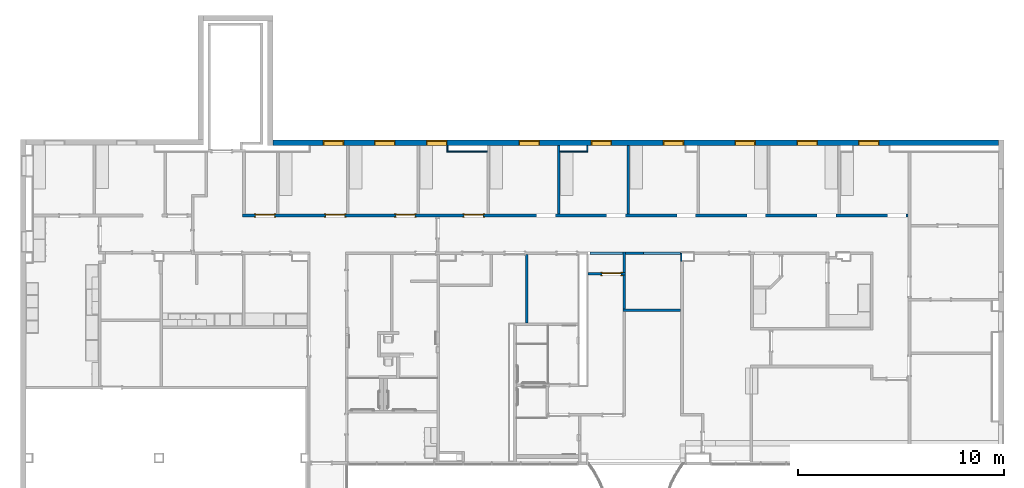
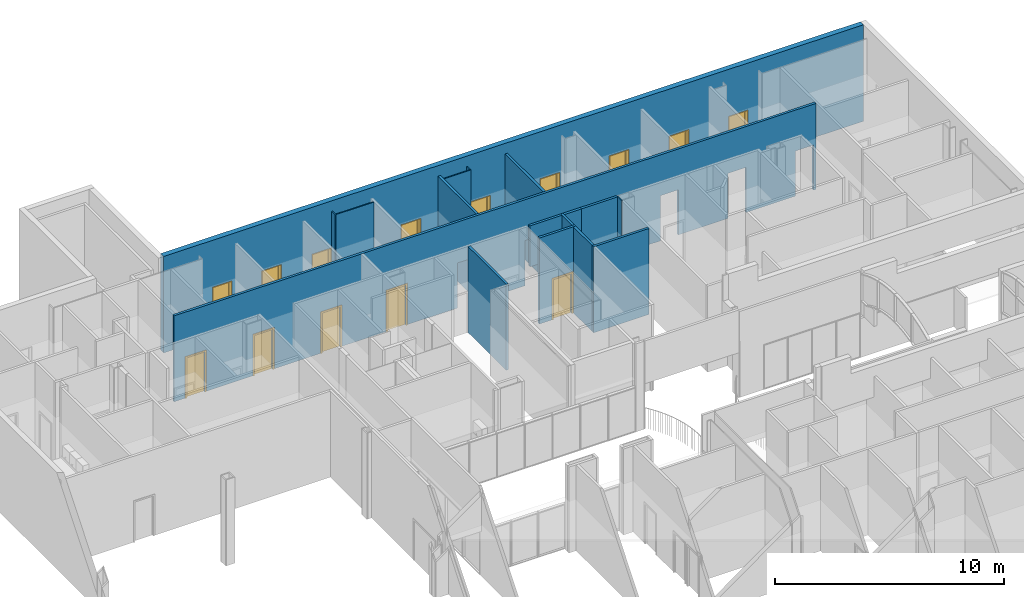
# One storey, part 22 of 45: 17 walls, 9 windows, 5 doors, 20 openings.
"""IFC2X3 building model written with IfcOpenShell, lengths in metres."""

from ifc_helpers import new_model, entity, si_unit, converted_unit, frame, frame_2d, origin, origin_2d_with_axis, place, context, project, spatial, polyline, rectangle, outline, extrude, source, transform, mapped, material, layer, layer_set, layer_usage, type_object, type_shapes, element, fill, save


model = new_model("IFC2X3")

# Units and contexts
model_context = context("Model", 3, precision=1e-09, world=origin())
plan_context = context("Plan", 3, precision=1e-09, world=origin())
ifc_project = project(units=[si_unit("LENGTHUNIT", "METRE"), si_unit("AREAUNIT", "SQUARE_METRE"), si_unit("VOLUMEUNIT", "CUBIC_METRE"), converted_unit("PLANEANGLEUNIT", "DEGREE", entity("IfcRatioMeasure", 0.01745329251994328), si_unit("PLANEANGLEUNIT", "RADIAN"), dimensions=[0, 0, 0, 0, 0, 0, 0]), si_unit("TIMEUNIT", "SECOND")], contexts=[model_context, plan_context])

# Site, building, storey
site_placement = place(None, origin())
site = spatial("IfcSite", under=ifc_project, at=site_placement, Name="Default", CompositionType="ELEMENT")
building_placement = place(site_placement, origin())
building = spatial("IfcBuilding", under=site, at=building_placement, CompositionType="ELEMENT")
storey_placement = place(building_placement, frame((0.0, 0.0, 4.570000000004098)))
storey = spatial("IfcBuildingStorey", under=building, at=storey_placement, Name="Second Floor", CompositionType="ELEMENT", Elevation=4.570000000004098)

# Wall, openings, doors
ifc_material_1 = material(Name="Plasterboard")
ifc_layer_1 = layer(ifc_material_1, 0.016)
ifc_material_2 = material(Name="Metal - Stud Layer")
ifc_layer_2 = layer(ifc_material_2, 0.092)
ifc_layer_3 = layer(ifc_material_1, 0.016)
ifc_layer_set_1 = layer_set([ifc_layer_1, ifc_layer_2, ifc_layer_3], Name="Basic Wall:Interior - Partition (92mm Stud)")
ifc_layer_usage_1 = layer_usage(ifc_layer_set_1, "AXIS2", "NEGATIVE", 0.062)
wall_1_placement = place(storey_placement, frame((-4.270000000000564, 46.81643871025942, 0.0), z_axis=(0.0, 0.0, 1.0), x_axis=(-1.0, 0.0, 0.0)))
wall_1 = element("IfcWallStandardCase", 1, at=wall_1_placement, inside=storey, material=ifc_layer_usage_1, Name="Basic Wall:Interior - Partition (92mm Stud)", ObjectType="Basic Wall:Interior - Partition (92mm Stud)", context=model_context, shape_type="SweptSolid", body=[
    extrude(rectangle(XDim=32.32000000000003, YDim=0.1240000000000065, at=frame_2d((16.16000000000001, 0.0), x_axis=(-1.0, 0.0))), origin(), (0.0, 0.0, 1.0), 4.577999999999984),
])
opening_1_placement = place(wall_1_placement, frame((17.59909999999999, 0.06200000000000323, 1.199999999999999)))
element("IfcOpeningElement", 2, at=opening_1_placement, cuts=wall_1, Name="Basic Wall:Interior - Partition (92mm Stud):7", ObjectType="Opening", context=model_context, shape_type="SweptSolid", body=[
    extrude(rectangle(XDim=2.4, YDim=0.9149999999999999, at=frame_2d((0.0, 0.0), x_axis=(0.0, 1.0))), frame((0.0, 0.0, 0.0), z_axis=(0.0, -1.0, 0.0), x_axis=(1.0, 0.0, 0.0)), (0.0, 0.0, 1.0), 0.124),
])
opening_2_placement = place(wall_1_placement, frame((7.37629231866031, 0.06200000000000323, 1.199999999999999)))
element("IfcOpeningElement", 3, at=opening_2_placement, cuts=wall_1, Name="Basic Wall:Interior - Partition (92mm Stud):4", ObjectType="Opening", context=model_context, shape_type="SweptSolid", body=[
    extrude(rectangle(XDim=2.4, YDim=0.9006153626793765, at=frame_2d((0.0, 0.0), x_axis=(0.0, 1.0))), frame((0.0, 0.0, 0.0), z_axis=(0.0, -1.0, 0.0), x_axis=(1.0, 0.0, 0.0)), (0.0, 0.0, 1.0), 0.124),
])
opening_3_placement = place(wall_1_placement, frame((3.968300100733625, 0.06200000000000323, 1.199999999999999)))
element("IfcOpeningElement", 4, at=opening_3_placement, cuts=wall_1, Name="Basic Wall:Interior - Partition (92mm Stud):3", ObjectType="Opening", context=model_context, shape_type="SweptSolid", body=[
    extrude(rectangle(XDim=2.4, YDim=0.9165997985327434, at=frame_2d((0.0, 0.0), x_axis=(0.0, 1.0))), frame((0.0, 0.0, 0.0), z_axis=(0.0, -1.0, 0.0), x_axis=(1.0, 0.0, 0.0)), (0.0, 0.0, 1.0), 0.124),
])
opening_4_placement = place(wall_1_placement, frame((14.18909999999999, 0.06200000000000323, 1.199999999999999)))
element("IfcOpeningElement", 5, at=opening_4_placement, cuts=wall_1, Name="Basic Wall:Interior - Partition (92mm Stud):6", ObjectType="Opening", context=model_context, shape_type="SweptSolid", body=[
    extrude(rectangle(XDim=2.4, YDim=0.9149999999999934, at=frame_2d((0.0, 0.0), x_axis=(0.0, 1.0))), frame((0.0, 0.0, 0.0), z_axis=(0.0, -1.0, 0.0), x_axis=(1.0, 0.0, 0.0)), (0.0, 0.0, 1.0), 0.124),
])
opening_5_placement = place(wall_1_placement, frame((0.5662923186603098, 0.06200000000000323, 1.199999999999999)))
element("IfcOpeningElement", 6, at=opening_5_placement, cuts=wall_1, Name="Basic Wall:Interior - Partition (92mm Stud):2", ObjectType="Opening", context=model_context, shape_type="SweptSolid", body=[
    extrude(rectangle(XDim=2.4, YDim=0.9006153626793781, at=frame_2d((0.0, 0.0), x_axis=(0.0, 1.0))), frame((0.0, 0.0, 0.0), z_axis=(0.0, -1.0, 0.0), x_axis=(1.0, 0.0, 0.0)), (0.0, 0.0, 1.0), 0.124),
])
opening_6_placement = place(wall_1_placement, frame((10.7791, 0.06200000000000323, 1.199999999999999)))
element("IfcOpeningElement", 7, at=opening_6_placement, cuts=wall_1, Name="Basic Wall:Interior - Partition (92mm Stud):5", ObjectType="Opening", context=model_context, shape_type="SweptSolid", body=[
    extrude(rectangle(XDim=2.4, YDim=0.9149999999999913, at=frame_2d((0.0, 0.0), x_axis=(0.0, 1.0))), frame((0.0, 0.0, 0.0), z_axis=(0.0, -1.0, 0.0), x_axis=(1.0, 0.0, 0.0)), (0.0, 0.0, 1.0), 0.124),
])
opening_7_placement = place(wall_1_placement, frame((24.875, 0.0619999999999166, 0.0)))
opening_7 = element("IfcOpeningElement", 8, at=opening_7_placement, cuts=wall_1, Name=":1", ObjectType="Opening", context=model_context, shape_type="SweptSolid", body=[
    extrude(rectangle(XDim=0.9149999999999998, YDim=2.134, at=frame_2d((1.067, 0.4575), x_axis=(0.0, 1.0))), frame((0.0, 0.0, 0.0), z_axis=(0.0, -1.0, 0.0), x_axis=(0.0, 0.0, 1.0)), (0.0, 0.0, 1.0), 0.124),
])
opening_8_placement = place(wall_1_placement, frame((28.285, 0.06199999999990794, 0.0)))
opening_8 = element("IfcOpeningElement", 9, at=opening_8_placement, cuts=wall_1, Name=":1", ObjectType="Opening", context=model_context, shape_type="SweptSolid", body=[
    extrude(rectangle(XDim=0.9149999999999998, YDim=2.134, at=frame_2d((1.067, 0.4575), x_axis=(0.0, 1.0))), frame((0.0, 0.0, 0.0), z_axis=(0.0, -1.0, 0.0), x_axis=(0.0, 0.0, 1.0)), (0.0, 0.0, 1.0), 0.124),
])
opening_9_placement = place(wall_1_placement, frame((21.56500000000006, 0.06199999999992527, 0.0)))
opening_9 = element("IfcOpeningElement", 10, at=opening_9_placement, cuts=wall_1, Name=":1", ObjectType="Opening", context=model_context, shape_type="SweptSolid", body=[
    extrude(rectangle(XDim=0.9149999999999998, YDim=2.134, at=frame_2d((1.067, 0.4575), x_axis=(0.0, 1.0))), frame((0.0, 0.0, 0.0), z_axis=(0.0, -1.0, 0.0), x_axis=(0.0, 0.0, 1.0)), (0.0, 0.0, 1.0), 0.124),
])
opening_10_placement = place(wall_1_placement, frame((31.695, 0.06199999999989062, 0.0)))
opening_10 = element("IfcOpeningElement", 11, at=opening_10_placement, cuts=wall_1, Name=":1", ObjectType="Opening", context=model_context, shape_type="SweptSolid", body=[
    extrude(rectangle(XDim=0.9149999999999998, YDim=2.134, at=frame_2d((1.067, 0.4575), x_axis=(0.0, 1.0))), frame((0.0, 0.0, 0.0), z_axis=(0.0, -1.0, 0.0), x_axis=(0.0, 0.0, 1.0)), (0.0, 0.0, 1.0), 0.124),
])
door_style = type_object("IfcDoorStyle", Name="0915 x 2134mm", ConstructionType="NOTDEFINED", OperationType="SINGLE_SWING_RIGHT", ParameterTakesPrecedence=False, Sizeable=False)
shared_shape_1 = source(origin(), model_context, "Body", "SweptSolid", [
    extrude(outline(polyline([(-0.5335, -1.123999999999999), (0.5334999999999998, -1.123999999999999), (0.5334999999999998, 1.086), (0.4574999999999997, 1.086), (0.4574999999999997, -1.048000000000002), (-0.4574999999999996, -1.048000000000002), (-0.4574999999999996, 1.086), (-0.5335, 1.086), (-0.5335, -1.123999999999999)])), frame((0.4575000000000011, 0.1239999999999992, 1.086), z_axis=(0.0, 1.0, 0.0), x_axis=(1.0, 0.0, 0.0)), (0.0, 0.0, 1.0), 0.02499999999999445),
    extrude(outline(polyline([(-1.123999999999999, -0.5334999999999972), (1.085999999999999, -0.5334999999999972), (1.085999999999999, -0.4575000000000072), (-1.048, -0.4575000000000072), (-1.048, 0.4575000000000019), (1.085999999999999, 0.4575000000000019), (1.085999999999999, 0.5335000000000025), (-1.123999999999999, 0.5335000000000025), (-1.123999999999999, -0.5334999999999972)])), frame((0.4575000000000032, -0.02500000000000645, 1.085999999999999), z_axis=(0.0, 1.0, 0.0), x_axis=(0.0, 0.0, -1.0)), (0.0, 0.0, 1.0), 0.02500000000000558),
    extrude(rectangle(XDim=0.051, YDim=0.9149999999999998, at=origin_2d_with_axis()), frame((0.4575000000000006, 0.09849999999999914, 0.0), z_axis=(0.0, 0.0, 1.0), x_axis=(0.0, 1.0, 0.0)), (0.0, 0.0, 1.0), 2.133999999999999),
])
type_shapes(door_style, [shared_shape_1])
door_1_placement = place(opening_7_placement, frame((0.0, 0.0, 0.0), z_axis=(0.0, 0.0, 1.0), x_axis=(-1.0, 0.0, 0.0)))
door_1 = element("IfcDoor", 12, at=door_1_placement, inside=storey, type_object=door_style, Name="M_Single-Flush:0915 x 2134mm:0915 x 2134mm", ObjectType="0915 x 2134mm", OverallHeight=2.134, OverallWidth=0.9149999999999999, context=model_context, shape_type="MappedRepresentation", body=[
    mapped(shared_shape_1, transform((0.0, 0.0, 0.0), scale=1.0)),
])
fill(opening_7, door_1)
door_2_placement = place(opening_10_placement, frame((0.0, 0.0, 0.0), z_axis=(0.0, 0.0, 1.0), x_axis=(-1.0, 0.0, 0.0)))
door_2 = element("IfcDoor", 13, at=door_2_placement, inside=storey, type_object=door_style, Name="M_Single-Flush:0915 x 2134mm:0915 x 2134mm", ObjectType="0915 x 2134mm", OverallHeight=2.134, OverallWidth=0.9149999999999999, context=model_context, shape_type="MappedRepresentation", body=[
    mapped(shared_shape_1, transform((0.0, 0.0, 0.0), scale=1.0)),
])
fill(opening_10, door_2)
door_3_placement = place(opening_9_placement, frame((0.0, 0.0, 0.0), z_axis=(0.0, 0.0, 1.0), x_axis=(-1.0, 0.0, 0.0)))
door_3 = element("IfcDoor", 14, at=door_3_placement, inside=storey, type_object=door_style, Name="M_Single-Flush:0915 x 2134mm:0915 x 2134mm", ObjectType="0915 x 2134mm", OverallHeight=2.134, OverallWidth=0.9149999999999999, context=model_context, shape_type="MappedRepresentation", body=[
    mapped(shared_shape_1, transform((0.0, 0.0, 0.0), scale=1.0)),
])
fill(opening_9, door_3)
door_4_placement = place(opening_8_placement, frame((0.0, 0.0, 0.0), z_axis=(0.0, 0.0, 1.0), x_axis=(-1.0, 0.0, 0.0)))
door_4 = element("IfcDoor", 15, at=door_4_placement, inside=storey, type_object=door_style, Name="M_Single-Flush:0915 x 2134mm:0915 x 2134mm", ObjectType="0915 x 2134mm", OverallHeight=2.134, OverallWidth=0.9149999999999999, context=model_context, shape_type="MappedRepresentation", body=[
    mapped(shared_shape_1, transform((0.0, 0.0, 0.0), scale=1.0)),
])
fill(opening_8, door_4)

# Wall, openings, windows
ifc_material_3 = material(Name="Insulation - Insulated Panel")
ifc_layer_4 = layer(ifc_material_3, 0.042)
ifc_material_4 = material(Name="Metal - Firring")
ifc_layer_5 = layer(ifc_material_4, 0.038)
ifc_material_5 = material(Name="Wood - Sheathing - plywood")
ifc_layer_6 = layer(ifc_material_5, 0.019)
ifc_layer_7 = layer(ifc_material_2, 0.152)
ifc_layer_8 = layer(ifc_material_1, 0.016)
ifc_layer_set_2 = layer_set([ifc_layer_4, ifc_layer_5, ifc_layer_6, ifc_layer_7, ifc_layer_8], Name="Basic Wall:Exterior - Insul Panel on Mtl. Stud")
ifc_layer_usage_2 = layer_usage(ifc_layer_set_2, "AXIS2", "NEGATIVE", 0.1335)
wall_2_placement = place(storey_placement, frame((-35.1300000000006, 50.33649999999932, 0.0)))
wall_2 = element("IfcWallStandardCase", 16, at=wall_2_placement, inside=storey, material=ifc_layer_usage_2, Name="Basic Wall:Exterior - Insul Panel on Mtl. Stud", ObjectType="Basic Wall:Exterior - Insul Panel on Mtl. Stud", context=model_context, shape_type="SweptSolid", body=[
    extrude(rectangle(XDim=35.24300000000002, YDim=0.2670000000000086, at=frame_2d((17.62150000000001, 0.0), x_axis=(-1.0, 0.0))), origin(), (0.0, 0.0, 1.0), 5.136999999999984),
])
opening_11_placement = place(wall_2_placement, frame((28.44000000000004, -0.1335000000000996, 0.905)))
opening_11 = element("IfcOpeningElement", 17, at=opening_11_placement, cuts=wall_2, Name="M_Fixed:1735 x 1000mm:1735 x 1000mm:1", ObjectType="Opening", context=model_context, shape_type="SweptSolid", body=[
    extrude(rectangle(XDim=1.734999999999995, YDim=0.9999999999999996, at=frame_2d((0.8674999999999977, 0.5000000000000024), x_axis=(1.0, 0.0))), frame((0.0, 0.0, 0.0), z_axis=(0.0, 1.0, 0.0), x_axis=(0.0, 0.0, 1.0)), (0.0, 0.0, 1.0), 0.267),
])
opening_12_placement = place(wall_2_placement, frame((25.45000000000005, -0.1335000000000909, 0.905)))
opening_12 = element("IfcOpeningElement", 18, at=opening_12_placement, cuts=wall_2, Name="M_Fixed:1735 x 1000mm:1735 x 1000mm:1", ObjectType="Opening", context=model_context, shape_type="SweptSolid", body=[
    extrude(rectangle(XDim=1.734999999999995, YDim=0.9999999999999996, at=frame_2d((0.8674999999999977, 0.4999999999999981), x_axis=(1.0, 0.0))), frame((0.0, 0.0, 0.0), z_axis=(0.0, 1.0, 0.0), x_axis=(0.0, 0.0, 1.0)), (0.0, 0.0, 1.0), 0.267),
])
opening_13_placement = place(wall_2_placement, frame((22.43600000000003, -0.1335000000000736, 0.905)))
opening_13 = element("IfcOpeningElement", 19, at=opening_13_placement, cuts=wall_2, Name="M_Fixed:1735 x 1000mm:1735 x 1000mm:1", ObjectType="Opening", context=model_context, shape_type="SweptSolid", body=[
    extrude(rectangle(XDim=1.734999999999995, YDim=0.9999999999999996, at=frame_2d((0.8674999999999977, 0.4999999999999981), x_axis=(1.0, 0.0))), frame((0.0, 0.0, 0.0), z_axis=(0.0, 1.0, 0.0), x_axis=(0.0, 0.0, 1.0)), (0.0, 0.0, 1.0), 0.267),
])
opening_14_placement = place(wall_2_placement, frame((2.450000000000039, -0.133500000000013, 0.905)))
opening_14 = element("IfcOpeningElement", 20, at=opening_14_placement, cuts=wall_2, Name="M_Fixed:1735 x 1000mm:1735 x 1000mm:1", ObjectType="Opening", context=model_context, shape_type="SweptSolid", body=[
    extrude(rectangle(XDim=1.734999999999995, YDim=0.9999999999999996, at=frame_2d((0.8674999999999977, 0.4999999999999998), x_axis=(1.0, 0.0))), frame((0.0, 0.0, 0.0), z_axis=(0.0, 1.0, 0.0), x_axis=(0.0, 0.0, 1.0)), (0.0, 0.0, 1.0), 0.267),
])
opening_15_placement = place(wall_2_placement, frame((4.940000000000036, -0.1335000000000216, 0.905)))
opening_15 = element("IfcOpeningElement", 21, at=opening_15_placement, cuts=wall_2, Name="M_Fixed:1735 x 1000mm:1735 x 1000mm:1", ObjectType="Opening", context=model_context, shape_type="SweptSolid", body=[
    extrude(rectangle(XDim=1.734999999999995, YDim=0.9999999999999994, at=frame_2d((0.8674999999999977, 0.5000000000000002), x_axis=(1.0, 0.0))), frame((0.0, 0.0, 0.0), z_axis=(0.0, 1.0, 0.0), x_axis=(0.0, 0.0, 1.0)), (0.0, 0.0, 1.0), 0.267),
])
opening_16_placement = place(wall_2_placement, frame((18.96002500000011, -0.133500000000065, 0.905)))
opening_16 = element("IfcOpeningElement", 22, at=opening_16_placement, cuts=wall_2, Name="M_Fixed:1735 x 1000mm:1735 x 1000mm:1", ObjectType="Opening", context=model_context, shape_type="SweptSolid", body=[
    extrude(rectangle(XDim=1.734999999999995, YDim=0.9999999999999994, at=frame_2d((0.8674999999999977, 0.5000000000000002), x_axis=(1.0, 0.0))), frame((0.0, 0.0, 0.0), z_axis=(0.0, 1.0, 0.0), x_axis=(0.0, 0.0, 1.0)), (0.0, 0.0, 1.0), 0.267),
])
opening_17_placement = place(wall_2_placement, frame((15.46000000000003, -0.1335000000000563, 0.905)))
opening_17 = element("IfcOpeningElement", 23, at=opening_17_placement, cuts=wall_2, Name="M_Fixed:1735 x 1000mm:1735 x 1000mm:1", ObjectType="Opening", context=model_context, shape_type="SweptSolid", body=[
    extrude(rectangle(XDim=1.734999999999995, YDim=0.9999999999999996, at=frame_2d((0.8674999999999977, 0.5000000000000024), x_axis=(1.0, 0.0))), frame((0.0, 0.0, 0.0), z_axis=(0.0, 1.0, 0.0), x_axis=(0.0, 0.0, 1.0)), (0.0, 0.0, 1.0), 0.267),
])
opening_18_placement = place(wall_2_placement, frame((11.95, -0.1335000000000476, 0.905)))
opening_18 = element("IfcOpeningElement", 24, at=opening_18_placement, cuts=wall_2, Name="M_Fixed:1735 x 1000mm:1735 x 1000mm:1", ObjectType="Opening", context=model_context, shape_type="SweptSolid", body=[
    extrude(rectangle(XDim=1.734999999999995, YDim=0.9999999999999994, at=frame_2d((0.8674999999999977, 0.5000000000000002), x_axis=(1.0, 0.0))), frame((0.0, 0.0, 0.0), z_axis=(0.0, 1.0, 0.0), x_axis=(0.0, 0.0, 1.0)), (0.0, 0.0, 1.0), 0.267),
])
opening_19_placement = place(wall_2_placement, frame((7.46, -0.1335000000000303, 0.905)))
opening_19 = element("IfcOpeningElement", 25, at=opening_19_placement, cuts=wall_2, Name="M_Fixed:1735 x 1000mm:1735 x 1000mm:1", ObjectType="Opening", context=model_context, shape_type="SweptSolid", body=[
    extrude(rectangle(XDim=1.734999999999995, YDim=0.9999999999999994, at=frame_2d((0.8674999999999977, 0.5000000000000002), x_axis=(1.0, 0.0))), frame((0.0, 0.0, 0.0), z_axis=(0.0, 1.0, 0.0), x_axis=(0.0, 0.0, 1.0)), (0.0, 0.0, 1.0), 0.267),
])
window_style = type_object("IfcWindowStyle", Name="1735 x 1000mm", ConstructionType="NOTDEFINED", OperationType="NOTDEFINED", ParameterTakesPrecedence=False, Sizeable=False)
shared_shape_2 = source(origin(), model_context, "Body", "SweptSolid", [
    extrude(rectangle(XDim=0.012, YDim=0.873999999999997, at=origin_2d_with_axis()), frame((0.5000000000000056, 0.2259999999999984, 0.06299999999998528), z_axis=(0.0, 0.0, 1.0), x_axis=(0.0, -1.0, 0.0)), (0.0, 0.0, 1.0), 1.609000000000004),
    extrude(outline(polyline([(-0.4809999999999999, -0.8485000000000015), (0.4809999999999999, -0.8485000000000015), (0.4809999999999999, 0.8485000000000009), (-0.4809999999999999, 0.8485000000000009), (-0.4809999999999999, -0.8485000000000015)]), holes=[polyline([(-0.4369999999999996, -0.8045000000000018), (-0.4369999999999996, 0.8045000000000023), (0.4369999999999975, 0.8045000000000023), (0.4369999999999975, -0.8045000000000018), (-0.4369999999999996, -0.8045000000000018)])]), frame((0.5000000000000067, 0.203999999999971, 0.8674999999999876), z_axis=(0.0, 1.0, 0.0), x_axis=(1.0, 0.0, 0.0)), (0.0, 0.0, 1.0), 0.04400000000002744),
    extrude(outline(polyline([(-0.4999999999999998, -0.8674999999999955), (0.4999999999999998, -0.8674999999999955), (0.4999999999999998, 0.8674999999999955), (-0.4999999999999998, 0.8674999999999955), (-0.4999999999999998, -0.8674999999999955)]), holes=[polyline([(-0.4810000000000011, -0.8484999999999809), (-0.4810000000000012, 0.8485000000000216), (0.4809999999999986, 0.8485000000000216), (0.4809999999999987, -0.8484999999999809), (-0.4810000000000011, -0.8484999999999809)])]), frame((0.500000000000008, 0.203999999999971, 0.8675000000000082), z_axis=(0.0, 1.0, 0.0), x_axis=(1.0, 0.0, 0.0)), (0.0, 0.0, 1.0), 0.06300000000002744),
    extrude(outline(polyline([(-0.5000000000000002, -0.867499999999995), (0.5000000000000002, -0.867499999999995), (0.5000000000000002, 0.867499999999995), (-0.5000000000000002, 0.867499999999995), (-0.5000000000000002, -0.867499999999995)]), holes=[polyline([(-0.4679999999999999, -0.8354999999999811), (-0.4679999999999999, 0.8355000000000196), (0.4680000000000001, 0.8355000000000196), (0.4680000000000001, -0.8354999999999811), (-0.4679999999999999, -0.8354999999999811)])]), frame((0.5000000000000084, 0.0, 0.8675000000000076), z_axis=(0.0, 1.0, 0.0), x_axis=(1.0, 0.0, 0.0)), (0.0, 0.0, 1.0), 0.2039999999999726),
])
type_shapes(window_style, [shared_shape_2])
window_1_placement = place(opening_14_placement, origin())
window_1 = element("IfcWindow", 26, at=window_1_placement, inside=storey, type_object=window_style, Name="M_Fixed:1735 x 1000mm:1735 x 1000mm", ObjectType="1735 x 1000mm", OverallHeight=1.734999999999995, OverallWidth=0.9999999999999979, context=model_context, shape_type="MappedRepresentation", body=[
    mapped(shared_shape_2, transform((0.0, 0.0, 0.0), scale=1.0)),
])
fill(opening_14, window_1)
window_2_placement = place(opening_15_placement, origin())
window_2 = element("IfcWindow", 27, at=window_2_placement, inside=storey, type_object=window_style, Name="M_Fixed:1735 x 1000mm:1735 x 1000mm", ObjectType="1735 x 1000mm", OverallHeight=1.734999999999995, OverallWidth=0.9999999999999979, context=model_context, shape_type="MappedRepresentation", body=[
    mapped(shared_shape_2, transform((0.0, 0.0, 0.0), scale=1.0)),
])
fill(opening_15, window_2)
window_3_placement = place(opening_19_placement, origin())
window_3 = element("IfcWindow", 28, at=window_3_placement, inside=storey, type_object=window_style, Name="M_Fixed:1735 x 1000mm:1735 x 1000mm", ObjectType="1735 x 1000mm", OverallHeight=1.734999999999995, OverallWidth=0.9999999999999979, context=model_context, shape_type="MappedRepresentation", body=[
    mapped(shared_shape_2, transform((0.0, 0.0, 0.0), scale=1.0)),
])
fill(opening_19, window_3)
window_4_placement = place(opening_17_placement, origin())
window_4 = element("IfcWindow", 29, at=window_4_placement, inside=storey, type_object=window_style, Name="M_Fixed:1735 x 1000mm:1735 x 1000mm", ObjectType="1735 x 1000mm", OverallHeight=1.734999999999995, OverallWidth=1.000000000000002, context=model_context, shape_type="MappedRepresentation", body=[
    mapped(shared_shape_2, transform((0.0, 0.0, 0.0), scale=1.0)),
])
fill(opening_17, window_4)
window_5_placement = place(opening_18_placement, origin())
window_5 = element("IfcWindow", 30, at=window_5_placement, inside=storey, type_object=window_style, Name="M_Fixed:1735 x 1000mm:1735 x 1000mm", ObjectType="1735 x 1000mm", OverallHeight=1.734999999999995, OverallWidth=0.9999999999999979, context=model_context, shape_type="MappedRepresentation", body=[
    mapped(shared_shape_2, transform((0.0, 0.0, 0.0), scale=1.0)),
])
fill(opening_18, window_5)
window_6_placement = place(opening_16_placement, origin())
window_6 = element("IfcWindow", 31, at=window_6_placement, inside=storey, type_object=window_style, Name="M_Fixed:1735 x 1000mm:1735 x 1000mm", ObjectType="1735 x 1000mm", OverallHeight=1.734999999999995, OverallWidth=1.0, context=model_context, shape_type="MappedRepresentation", body=[
    mapped(shared_shape_2, transform((0.0, 0.0, 0.0), scale=1.0)),
])
fill(opening_16, window_6)
window_7_placement = place(opening_11_placement, origin())
window_7 = element("IfcWindow", 32, at=window_7_placement, inside=storey, type_object=window_style, Name="M_Fixed:1735 x 1000mm:1735 x 1000mm", ObjectType="1735 x 1000mm", OverallHeight=1.734999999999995, OverallWidth=1.0, context=model_context, shape_type="MappedRepresentation", body=[
    mapped(shared_shape_2, transform((0.0, 0.0, 0.0), scale=1.0)),
])
fill(opening_11, window_7)
window_8_placement = place(opening_12_placement, origin())
window_8 = element("IfcWindow", 33, at=window_8_placement, inside=storey, type_object=window_style, Name="M_Fixed:1735 x 1000mm:1735 x 1000mm", ObjectType="1735 x 1000mm", OverallHeight=1.734999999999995, OverallWidth=1.0, context=model_context, shape_type="MappedRepresentation", body=[
    mapped(shared_shape_2, transform((0.0, 0.0, 0.0), scale=1.0)),
])
fill(opening_12, window_8)
window_9_placement = place(opening_13_placement, origin())
window_9 = element("IfcWindow", 34, at=window_9_placement, inside=storey, type_object=window_style, Name="M_Fixed:1735 x 1000mm:1735 x 1000mm", ObjectType="1735 x 1000mm", OverallHeight=1.734999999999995, OverallWidth=1.0, context=model_context, shape_type="MappedRepresentation", body=[
    mapped(shared_shape_2, transform((0.0, 0.0, 0.0), scale=1.0)),
])
fill(opening_13, window_9)

# Wall
ifc_layer_9 = layer(ifc_material_2, 0.038)
ifc_layer_10 = layer(ifc_material_1, 0.016)
ifc_layer_set_3 = layer_set([ifc_layer_9, ifc_layer_10], Name="Basic Wall:Interior - Furring (38 mm Stud)")
ifc_layer_usage_3 = layer_usage(ifc_layer_set_3, "AXIS2", "POSITIVE", -0.027)
wall_3_placement = place(storey_placement, frame((-15.29300000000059, 44.58443871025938, 0.0), z_axis=(0.0, 0.0, 1.0), x_axis=(0.0, 1.0, 0.0)))
element("IfcWallStandardCase", 35, at=wall_3_placement, inside=storey, material=ifc_layer_usage_3, Name="Basic Wall:Interior - Furring (38 mm Stud)", ObjectType="Basic Wall:Interior - Furring (38 mm Stud)", context=model_context, shape_type="SweptSolid", body=[
    extrude(rectangle(XDim=0.4060000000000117, YDim=0.05400000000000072, at=frame_2d((0.2030000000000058, 0.0), x_axis=(-1.0, 0.0))), origin(), (0.0, 0.0, 1.0), 4.577999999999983),
])

# Wall, opening, door
wall_4_placement = place(storey_placement, frame((-19.83000000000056, 43.97743871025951, 0.0)))
wall_4 = element("IfcWallStandardCase", 36, at=wall_4_placement, inside=storey, material=ifc_layer_usage_1, Name="Basic Wall:Interior - Partition (92mm Stud)", ObjectType="Basic Wall:Interior - Partition (92mm Stud)", context=model_context, shape_type="SweptSolid", body=[
    extrude(rectangle(XDim=1.833999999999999, YDim=0.1240000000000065, at=frame_2d((0.9169999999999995, 0.0), x_axis=(-1.0, 0.0))), origin(), (0.0, 0.0, 1.0), 4.577999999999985),
])
opening_20_placement = place(wall_4_placement, frame((0.6949999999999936, -0.06200000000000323, 0.0)))
opening_20 = element("IfcOpeningElement", 37, at=opening_20_placement, cuts=wall_4, Name="M_Single-Flush:0915 x 2134mm:0915 x 2134mm:1", ObjectType="Opening", context=model_context, shape_type="SweptSolid", body=[
    extrude(rectangle(XDim=0.9149999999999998, YDim=2.134, at=frame_2d((1.067, 0.4575), x_axis=(0.0, 1.0))), frame((0.0, 0.0, 0.0), z_axis=(0.0, 1.0, 0.0), x_axis=(0.0, 0.0, 1.0)), (0.0, 0.0, 1.0), 0.124),
])
door_5_placement = place(opening_20_placement, origin())
door_5 = element("IfcDoor", 38, at=door_5_placement, inside=storey, type_object=door_style, Name="M_Single-Flush:0915 x 2134mm:0915 x 2134mm", ObjectType="0915 x 2134mm", OverallHeight=2.134, OverallWidth=0.9149999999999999, context=model_context, shape_type="MappedRepresentation", body=[
    mapped(shared_shape_1, transform((0.0, 0.0, 0.0), scale=1.0)),
])
fill(opening_20, door_5)

# Walls
wall_5_placement = place(storey_placement, frame((-17.99600000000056, 44.9824387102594, 0.0)))
element("IfcWallStandardCase", 39, at=wall_5_placement, inside=storey, material=ifc_layer_usage_1, Name="Basic Wall:Interior - Partition (92mm Stud)", ObjectType="Basic Wall:Interior - Partition (92mm Stud)", context=model_context, shape_type="SweptSolid", body=[
    extrude(rectangle(XDim=0.8709999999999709, YDim=0.1240000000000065, at=frame_2d((0.4354999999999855, 0.0), x_axis=(-1.0, 0.0))), origin(), (0.0, 0.0, 1.0), 4.577999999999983),
])
wall_6_placement = place(storey_placement, frame((-17.12500000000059, 44.9824387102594, 2.399999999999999)))
element("IfcWallStandardCase", 40, at=wall_6_placement, inside=storey, material=ifc_layer_usage_1, Name="Basic Wall:Interior - Partition (92mm Stud)", ObjectType="Basic Wall:Interior - Partition (92mm Stud)", context=model_context, shape_type="SweptSolid", body=[
    extrude(rectangle(XDim=1.804999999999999, YDim=0.1240000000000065, at=frame_2d((0.9024999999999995, 0.0), x_axis=(-1.0, 0.0))), origin(), (0.0, 0.0, 1.0), 2.177999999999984),
])
wall_7_placement = place(storey_placement, frame((-21.24800000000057, 46.87843871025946, 0.0), z_axis=(0.0, 0.0, 1.0), x_axis=(0.0, 1.0, 0.0)))
element("IfcWallStandardCase", 41, at=wall_7_placement, inside=storey, material=ifc_layer_usage_1, Name="Basic Wall:Interior - Partition (92mm Stud)", ObjectType="Basic Wall:Interior - Partition (92mm Stud)", context=model_context, shape_type="SweptSolid", body=[
    extrude(rectangle(XDim=3.324561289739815, YDim=0.1239999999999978, at=frame_2d((1.662280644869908, 0.0), x_axis=(-1.0, 0.0))), origin(), (0.0, 0.0, 1.0), 4.577999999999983),
])
wall_8_placement = place(storey_placement, frame((-18.05800000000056, 44.03943871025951, 0.0), z_axis=(0.0, 0.0, 1.0), x_axis=(0.0, 1.0, 0.0)))
element("IfcWallStandardCase", 42, at=wall_8_placement, inside=storey, material=ifc_layer_usage_1, Name="Basic Wall:Interior - Partition (92mm Stud)", ObjectType="Basic Wall:Interior - Partition (92mm Stud)", context=model_context, shape_type="SweptSolid", body=[
    extrude(rectangle(XDim=1.004999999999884, YDim=0.1240000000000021, at=frame_2d((0.5024999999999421, 0.0), x_axis=(-1.0, 0.0))), origin(), (0.0, 0.0, 1.0), 4.577999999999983),
])
wall_9_placement = place(storey_placement, frame((-18.06700000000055, 42.28000069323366, 0.0), z_axis=(0.0, 0.0, 1.0), x_axis=(0.0, 1.0, 0.0)))
element("IfcWallStandardCase", 43, at=wall_9_placement, inside=storey, material=ifc_layer_usage_1, Name="Basic Wall:Interior - Partition (92mm Stud)", ObjectType="Basic Wall:Interior - Partition (92mm Stud)", context=model_context, shape_type="SweptSolid", body=[
    extrude(rectangle(XDim=1.635438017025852, YDim=0.1240000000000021, at=frame_2d((0.8177190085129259, 0.0), x_axis=(-1.0, 0.0))), origin(), (0.0, 0.0, 1.0), 4.577999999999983),
])
wall_10_placement = place(storey_placement, frame((-17.87200000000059, 50.20299999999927, 0.0), z_axis=(0.0, 0.0, 1.0), x_axis=(0.0, -1.0, 0.0)))
element("IfcWallStandardCase", 44, at=wall_10_placement, inside=storey, material=ifc_layer_usage_1, Name="Basic Wall:Interior - Partition (92mm Stud)", ObjectType="Basic Wall:Interior - Partition (92mm Stud)", context=model_context, shape_type="SweptSolid", body=[
    extrude(rectangle(XDim=3.324561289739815, YDim=0.1240000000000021, at=frame_2d((1.662280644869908, 0.0), x_axis=(-1.0, 0.0))), origin(), (0.0, 0.0, 1.0), 4.577999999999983),
])
wall_11_placement = place(storey_placement, frame((-15.32000000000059, 42.21800069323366, 0.0), z_axis=(0.0, 0.0, 1.0), x_axis=(-1.0, 0.0, 0.0)))
element("IfcWallStandardCase", 45, at=wall_11_placement, inside=storey, material=ifc_layer_usage_1, Name="Basic Wall:Interior - Partition (92mm Stud)", ObjectType="Basic Wall:Interior - Partition (92mm Stud)", context=model_context, shape_type="SweptSolid", body=[
    extrude(rectangle(XDim=2.808999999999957, YDim=0.1240000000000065, at=frame_2d((1.404499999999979, 0.0), x_axis=(-1.0, 0.0))), origin(), (0.0, 0.0, 1.0), 4.577999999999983),
])
wall_12_placement = place(storey_placement, frame((-19.72840000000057, 44.98243871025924, 2.399999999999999)))
element("IfcWallStandardCase", 46, at=wall_12_placement, inside=storey, material=ifc_layer_usage_1, Name="Basic Wall:Interior - Partition (92mm Stud)", ObjectType="Basic Wall:Interior - Partition (92mm Stud)", context=model_context, shape_type="SweptSolid", body=[
    extrude(rectangle(XDim=1.608400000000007, YDim=0.1240000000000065, at=frame_2d((0.8042000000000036, 0.0), x_axis=(-1.0, 0.0))), origin(), (0.0, 0.0, 1.0), 2.177999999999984),
])
wall_13_placement = place(storey_placement, frame((-22.79200000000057, 44.92043871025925, 0.0), z_axis=(0.0, 0.0, 1.0), x_axis=(0.0, -1.0, 0.0)))
element("IfcWallStandardCase", 47, at=wall_13_placement, inside=storey, material=ifc_layer_usage_1, Name="Basic Wall:Interior - Partition (92mm Stud)", ObjectType="Basic Wall:Interior - Partition (92mm Stud)", context=model_context, shape_type="SweptSolid", body=[
    extrude(rectangle(XDim=3.325999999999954, YDim=0.1239999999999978, at=frame_2d((1.662999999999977, 0.0), x_axis=(-1.0, 0.0))), origin(), (0.0, 0.0, 1.0), 4.577999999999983),
])
ifc_layer_usage_4 = layer_usage(ifc_layer_set_3, "AXIS2", "NEGATIVE", 0.027)
wall_14_placement = place(storey_placement, frame((-26.6430000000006, 50.20299999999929, 0.0), z_axis=(0.0, 0.0, 1.0), x_axis=(0.0, -1.0, 0.0)))
element("IfcWallStandardCase", 48, at=wall_14_placement, inside=storey, material=ifc_layer_usage_4, Name="Basic Wall:Interior - Furring (38 mm Stud)", ObjectType="Basic Wall:Interior - Furring (38 mm Stud)", context=model_context, shape_type="SweptSolid", body=[
    extrude(rectangle(XDim=0.3085612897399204, YDim=0.05399999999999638, at=frame_2d((0.1542806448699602, 0.0), x_axis=(-1.0, 0.0))), origin(), (0.0, 0.0, 1.0), 4.577999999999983),
])
wall_15_placement = place(storey_placement, frame((-19.85700000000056, 49.94843871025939, 0.0), z_axis=(0.0, 0.0, 1.0), x_axis=(0.0, 1.0, 0.0)))
element("IfcWallStandardCase", 49, at=wall_15_placement, inside=storey, material=ifc_layer_usage_4, Name="Basic Wall:Interior - Furring (38 mm Stud)", ObjectType="Basic Wall:Interior - Furring (38 mm Stud)", context=model_context, shape_type="SweptSolid", body=[
    extrude(rectangle(XDim=0.2545612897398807, YDim=0.05399999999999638, at=frame_2d((0.1272806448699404, 0.0), x_axis=(-1.0, 0.0))), origin(), (0.0, 0.0, 1.0), 4.577999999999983),
])
wall_16_placement = place(storey_placement, frame((-21.18600000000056, 49.9214387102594, 0.0)))
element("IfcWallStandardCase", 50, at=wall_16_placement, inside=storey, material=ifc_layer_usage_4, Name="Basic Wall:Interior - Furring (38 mm Stud)", ObjectType="Basic Wall:Interior - Furring (38 mm Stud)", context=model_context, shape_type="SweptSolid", body=[
    extrude(rectangle(XDim=1.356000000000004, YDim=0.05400000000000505, at=frame_2d((0.6780000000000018, 0.0), x_axis=(-1.0, 0.0))), origin(), (0.0, 0.0, 1.0), 4.577999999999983),
])
wall_17_placement = place(storey_placement, frame((-26.6160000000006, 49.92143871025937, 0.0)))
element("IfcWallStandardCase", 51, at=wall_17_placement, inside=storey, material=ifc_layer_usage_4, Name="Basic Wall:Interior - Furring (38 mm Stud)", ObjectType="Basic Wall:Interior - Furring (38 mm Stud)", context=model_context, shape_type="SweptSolid", body=[
    extrude(rectangle(XDim=1.895999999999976, YDim=0.05400000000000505, at=frame_2d((0.9479999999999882, 0.0), x_axis=(-1.0, 0.0))), origin(), (0.0, 0.0, 1.0), 4.577999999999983),
])

save(model, "model.ifc")
